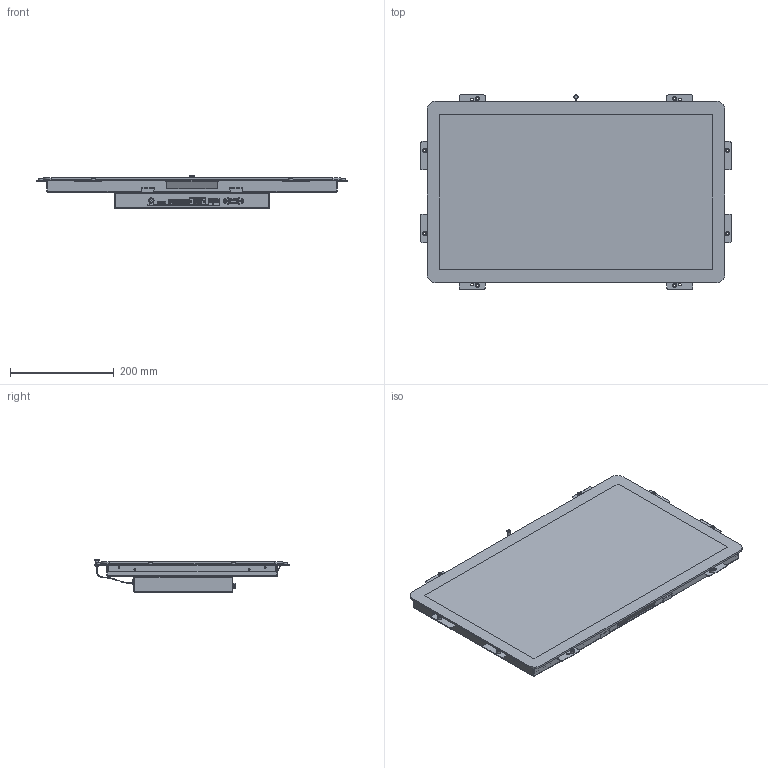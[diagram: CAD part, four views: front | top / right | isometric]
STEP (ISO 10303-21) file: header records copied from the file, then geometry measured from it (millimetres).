
FILE_DESCRIPTION (( 'STEP AP203' ), '1' );
FILE_NAME ('Z240-OF-MON Assembly.STEP', '2025-11-28T10:36:43', ( '' ), ( '' ), 'SwSTEP 2.0', 'SolidWorks 2025', '' );
FILE_SCHEMA (( 'CONFIG_CONTROL_DESIGN' ));
Length unit declared in the file: millimetre
Products named in the file (24): USB panelmount_Défaut; AD-kit 15-24''''; VGA D-Sub right-angle; Afstandbus 4,2x8x5; SO-3,5M3-6-ZI Inpersafstandsteun; Led driver 24; OSD-sticker; MONB240-00 Assembly; ITD-Lichtsensor; Z240-OF-MON Assembly; HDMI_soldered; Led driver 15-19; Led driver 21,5; DVI-I_默认; MPP-240-10 Mounting plate; sn sticker^TFT-ITD-00 Backcover assembly; BC-ITD-10 Backcover; TFT-ITD-00 Backcover assembly_Monitor componenten; ITD24KITT5HB01 display + sensor; Essentra 465907; ITD-IO Input sticker
Assembly tree (59 placements, depth 4):
  Z240-OF-MON Assembly
    MONB240-00 Assembly
      MPP-240-10 Mounting plate
        MPP-240-10 Mounting plate
        SO-3,5M3-6-ZI Inpersafstandsteun  x12
      ITD24KITT5HB01 display + sensor
    TFT-ITD-00 Backcover assembly_Monitor componenten
      BC-ITD-10 Backcover
        BC-ITD-10 Backcover
        SO-3,5M3-6-ZI Inpersafstandsteun  x18
      AD-kit 15-24''''
        AD-kit 15-24''''
        DVI-I_默认
        HDMI_soldered
        VGA D-Sub right-angle
      USB panelmount_Défaut
      sn sticker^TFT-ITD-00 Backcover assembly
      Led driver 15-19
      Led driver 21,5
      Led driver 24
      ITD-IO Input sticker
      OSD-sticker
    ITD-Lichtsensor
    Essentra 465907
    Afstandbus 4,2x8x5  x8
Bounding box: 596.5 x 373.41 x 63.1 mm (x, y, z)
Volume: 339392.3 mm3; surface area: 1111780.6 mm2
Topology: 55 solids, 62 shells, 4038 faces, 10945 edges, 7176 vertices
Faces by surface type: plane 2896, cylinder 739, bspline 333, cone 46, torus 20, sphere 4
Full cylindrical faces by diameter (mm): 0.65 x15, 0.9 x15, 1 x1, 1.5 x1, 1.68 x2, 2.5 x30, 2.9 x2, 3 x4, 3.16 x2, 3.33 x2, 3.5 x33, 3.73 x2, 3.76 x2, 4 x4, 4.2 x8, 4.5 x6, 4.69 x2, 5 x12, 5.4 x30, 5.49 x30, 5.5 x4, 6 x2, 6.5 x2, 8 x16, 8.5 x1, 10 x1
Entity records: 134905 total; most frequent: CARTESIAN_POINT 38998, ORIENTED_EDGE 19502, DIRECTION 17431, EDGE_CURVE 9973, LINE 7835, VECTOR 7835, VERTEX_POINT 6649, AXIS2_PLACEMENT_3D 4798
